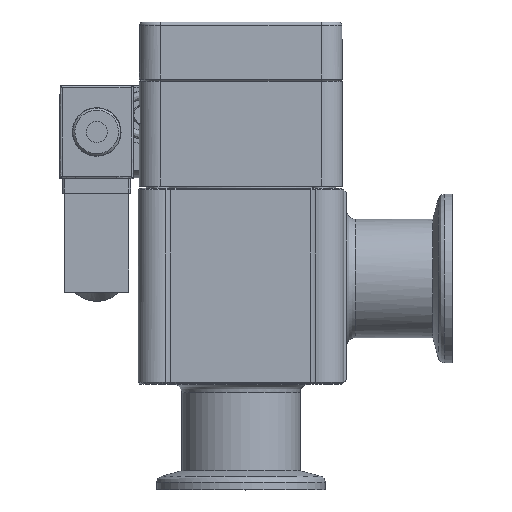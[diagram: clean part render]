
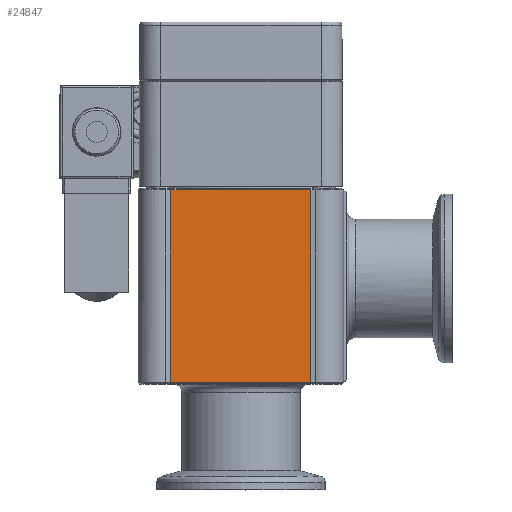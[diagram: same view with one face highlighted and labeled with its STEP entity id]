
A CAD part, top view. The second image highlights one B-rep face of the part: STEP entity #24847.
In plain terms, the highlighted free-form (B-spline) face has degree [1, 1] with [2, 2] control points.
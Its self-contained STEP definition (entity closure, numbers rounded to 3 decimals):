
#21017=CARTESIAN_POINT('V156',(-16.532,
   67.9,24.));
#21018=VERTEX_POINT('V156',#21017);
#21061=CARTESIAN_POINT('V154',(16.532,67.9,
   24.0));
#21062=VERTEX_POINT('V154',#21061);
#21068=CARTESIAN_POINT('E292',(16.532,67.9,
   24.));
#21069=CARTESIAN_POINT('E292',(-16.532,
   67.9,24.));
#21070=B_SPLINE_CURVE_WITH_KNOTS('E292',1,(#21068,#21069),
   .POLYLINE_FORM.,.F.,.U.,(2,2),(2.0,60.45),
   .UNSPECIFIED.);
#21071=EDGE_CURVE('E292',#21062,#21018,#21070,.T.);
#21305=CARTESIAN_POINT('V140',(16.532,22.4,
   24.0));
#21306=VERTEX_POINT('V140',#21305);
#21349=CARTESIAN_POINT('V138',(-16.532,
   22.4,24.));
#21350=VERTEX_POINT('V138',#21349);
#21356=CARTESIAN_POINT('E248',(-16.532,
   22.4,24.));
#21357=CARTESIAN_POINT('E248',(16.532,22.4,
   24.0));
#21358=B_SPLINE_CURVE_WITH_KNOTS('E248',1,(#21356,#21357),
   .POLYLINE_FORM.,.F.,.U.,(2,2),(2.0,60.45),
   .UNSPECIFIED.);
#21359=EDGE_CURVE('E248',#21350,#21306,#21358,.T.);
#22167=CARTESIAN_POINT('E187',(16.532,22.4,
   24.0));
#22168=CARTESIAN_POINT('E187',(16.532,67.9,
   24.0));
#22169=B_SPLINE_CURVE_WITH_KNOTS('E187',1,(#22167,#22168),
   .POLYLINE_FORM.,.F.,.U.,(2,2),(2.331,
   39.942),.UNSPECIFIED.);
#22170=EDGE_CURVE('E187',#21306,#21062,#22169,.T.);
#22190=CARTESIAN_POINT('E177',(-16.532,
   67.9,24.));
#22191=CARTESIAN_POINT('E177',(-16.532,
   22.4,24.));
#22192=B_SPLINE_CURVE_WITH_KNOTS('E177',1,(#22190,#22191),
   .POLYLINE_FORM.,.F.,.U.,(2,2),(2.331,
   39.942),.UNSPECIFIED.);
#22193=EDGE_CURVE('E177',#21018,#21350,#22192,.T.);
#24836=CARTESIAN_POINT('F36',(-17.242,21.,
   24.0));
#24837=CARTESIAN_POINT('F36',(17.242,21.,
   24.));
#24838=CARTESIAN_POINT('F36',(-17.242,71.8,
   24.));
#24839=CARTESIAN_POINT('F36',(17.242,71.8,
   24.));
#24840=B_SPLINE_SURFACE_WITH_KNOTS('F36',1,1,((#24836,#24838),(
   #24837,#24839)),.PLANE_SURF.,.F.,.F.,.U.,(2,2),(2,2),(0.0,1.0),
   (0.696,2.169),.UNSPECIFIED.);
#24841=ORIENTED_EDGE('E292',*,*,#21071,.F.);
#24842=ORIENTED_EDGE('F68',*,*,#22170,.F.);
#24843=ORIENTED_EDGE('E248',*,*,#21359,.F.);
#24844=ORIENTED_EDGE('E177',*,*,#22193,.F.);
#24845=EDGE_LOOP('F36',(#24841,#24842,#24843,#24844));
#24846=FACE_OUTER_BOUND('F36',#24845,.F.);
#24847=ADVANCED_FACE('F36',(#24846),#24840,.T.);
